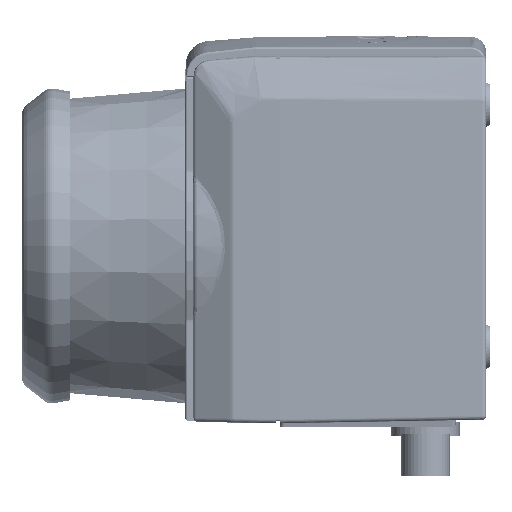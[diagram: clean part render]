
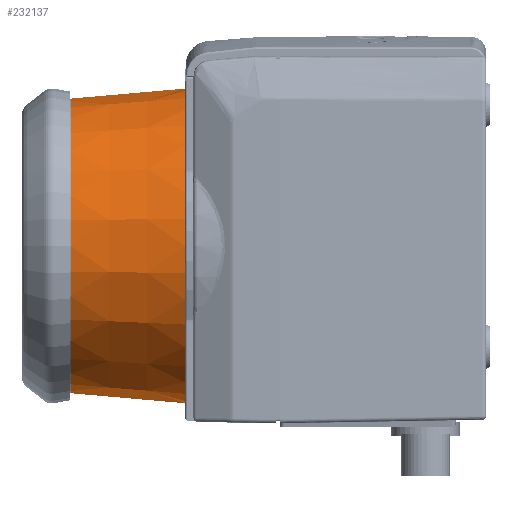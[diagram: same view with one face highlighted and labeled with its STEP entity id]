
A CAD part, left-side view. The second image highlights one B-rep face of the part: STEP entity #232137.
In plain terms, the highlighted conical face has half-angle 5 degrees and reference radius 36.5 mm.
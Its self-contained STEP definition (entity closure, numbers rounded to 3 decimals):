
#38262 = FACE_OUTER_BOUND ( 'NONE', #329968, .T. ) ;
#49149 = DIRECTION ( 'NONE',  ( 0., -1., 0. ) ) ;
#60029 = EDGE_CURVE ( 'NONE', #222923, #309458, #195650, .T. ) ;
#108640 = DIRECTION ( 'NONE',  ( 0., -0.996, -0.087 ) ) ;
#119138 = EDGE_CURVE ( 'NONE', #309458, #441065, #170169, .T. ) ;
#133151 = CARTESIAN_POINT ( 'NONE',  ( 0., 61.63, -38.989 ) ) ;
#165314 = DIRECTION ( 'NONE',  ( 0., -0.996, 0.087 ) ) ;
#170169 = LINE ( 'NONE', #340308, #293834 ) ;
#174176 = DIRECTION ( 'NONE',  ( 0., 0., -1. ) ) ;
#174325 = VERTEX_POINT ( 'NONE', #404128 ) ;
#181348 = AXIS2_PLACEMENT_3D ( 'NONE', #189995, #514982, #236715 ) ;
#184494 = AXIS2_PLACEMENT_3D ( 'NONE', #360975, #545826, #174176 ) ;
#189995 = CARTESIAN_POINT ( 'NONE',  ( 0., 61.63, 0. ) ) ;
#195650 = CIRCLE ( 'NONE', #405731, 36.511 ) ;
#222923 = VERTEX_POINT ( 'NONE', #292035 ) ;
#232137 = ADVANCED_FACE ( 'NONE', ( #38262 ), #503184, .T. ) ;
#236715 = DIRECTION ( 'NONE',  ( 0., 0., 1. ) ) ;
#259115 = ORIENTED_EDGE ( 'NONE', *, *, #60029, .T. ) ;
#266058 = ORIENTED_EDGE ( 'NONE', *, *, #292535, .T. ) ;
#292035 = CARTESIAN_POINT ( 'NONE',  ( 0., 89.945, 36.511 ) ) ;
#292535 = EDGE_CURVE ( 'NONE', #441065, #174325, #459781, .T. ) ;
#293834 = VECTOR ( 'NONE', #108640, 1000. ) ;
#309458 = VERTEX_POINT ( 'NONE', #310896 ) ;
#310896 = CARTESIAN_POINT ( 'NONE',  ( 0., 89.945, -36.511 ) ) ;
#327529 = CARTESIAN_POINT ( 'NONE',  ( 0., 89.945, 0. ) ) ;
#329968 = EDGE_LOOP ( 'NONE', ( #376017, #259115, #387398, #266058 ) ) ;
#340308 = CARTESIAN_POINT ( 'NONE',  ( 0., 90.075, -36.5 ) ) ;
#357873 = LINE ( 'NONE', #490264, #481430 ) ;
#360266 = EDGE_CURVE ( 'NONE', #222923, #174325, #357873, .T. ) ;
#360975 = CARTESIAN_POINT ( 'NONE',  ( 0., 90.075, 0. ) ) ;
#374093 = DIRECTION ( 'NONE',  ( 0., 0., -1. ) ) ;
#376017 = ORIENTED_EDGE ( 'NONE', *, *, #360266, .F. ) ;
#387398 = ORIENTED_EDGE ( 'NONE', *, *, #119138, .T. ) ;
#404128 = CARTESIAN_POINT ( 'NONE',  ( 0., 61.63, 38.989 ) ) ;
#405731 = AXIS2_PLACEMENT_3D ( 'NONE', #327529, #49149, #374093 ) ;
#441065 = VERTEX_POINT ( 'NONE', #133151 ) ;
#459781 = CIRCLE ( 'NONE', #181348, 38.989 ) ;
#481430 = VECTOR ( 'NONE', #165314, 1000. ) ;
#490264 = CARTESIAN_POINT ( 'NONE',  ( 0., 90.075, 36.5 ) ) ;
#503184 = CONICAL_SURFACE ( 'NONE', #184494, 36.5, 0.087 ) ;
#514982 = DIRECTION ( 'NONE',  ( 0., 1., 0. ) ) ;
#545826 = DIRECTION ( 'NONE',  ( 0., -1., 0. ) ) ;
